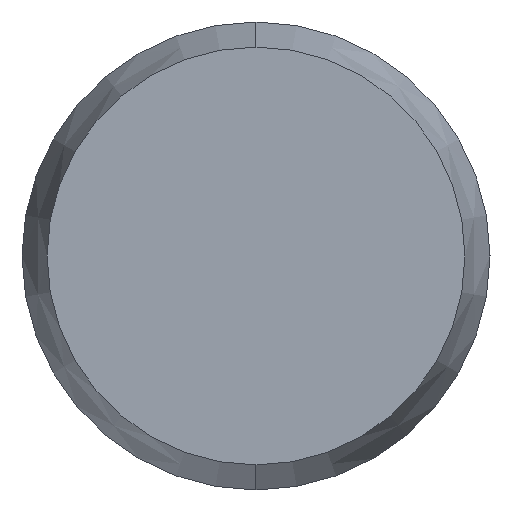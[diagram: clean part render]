
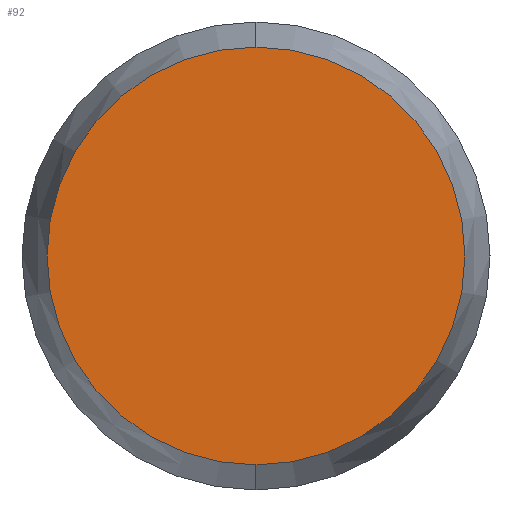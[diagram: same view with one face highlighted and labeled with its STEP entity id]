
A CAD part, left-side view. The second image highlights one B-rep face of the part: STEP entity #92.
In plain terms, the highlighted planar face has unit normal (-1, 0, 0).
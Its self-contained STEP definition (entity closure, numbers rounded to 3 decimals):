
#78 = AXIS2_PLACEMENT_3D ( 'NONE', #230, #229, #228 ) ;
#79 = PLANE ( 'NONE',  #78 ) ;
#80 = FACE_OUTER_BOUND ( 'NONE', #93, .T. ) ;
#81 = DIRECTION ( 'NONE',  ( 0., 0., -1. ) ) ;
#82 = DIRECTION ( 'NONE',  ( 1., 0., 0. ) ) ;
#83 = CARTESIAN_POINT ( 'NONE',  ( -5., 0., 0. ) ) ;
#84 = AXIS2_PLACEMENT_3D ( 'NONE', #83, #82, #81 ) ;
#85 = CIRCLE ( 'NONE', #84, 0.446 ) ;
#89 = EDGE_CURVE ( 'NONE', #174, #173, #85, .T. ) ;
#92 = ADVANCED_FACE ( 'NONE', ( #80 ), #79, .F. ) ;
#93 = EDGE_LOOP ( 'NONE', ( #94, #95 ) ) ;
#94 = ORIENTED_EDGE ( 'NONE', *, *, #172, .F. ) ;
#95 = ORIENTED_EDGE ( 'NONE', *, *, #89, .F. ) ;
#147 = DIRECTION ( 'NONE',  ( 1., 0., 0. ) ) ;
#148 = CARTESIAN_POINT ( 'NONE',  ( -5., 0., 0. ) ) ;
#149 = AXIS2_PLACEMENT_3D ( 'NONE', #148, #147, #265 ) ;
#150 = CIRCLE ( 'NONE', #149, 0.446 ) ;
#172 = EDGE_CURVE ( 'NONE', #173, #174, #150, .T. ) ;
#173 = VERTEX_POINT ( 'NONE', #264 ) ;
#174 = VERTEX_POINT ( 'NONE', #263 ) ;
#228 = DIRECTION ( 'NONE',  ( 0., 0., -1. ) ) ;
#229 = DIRECTION ( 'NONE',  ( 1., 0., 0. ) ) ;
#230 = CARTESIAN_POINT ( 'NONE',  ( -5., 0., 0. ) ) ;
#263 = CARTESIAN_POINT ( 'NONE',  ( -5., 0., -0.446 ) ) ;
#264 = CARTESIAN_POINT ( 'NONE',  ( -5., 0., 0.446 ) ) ;
#265 = DIRECTION ( 'NONE',  ( 0., 0., -1. ) ) ;
